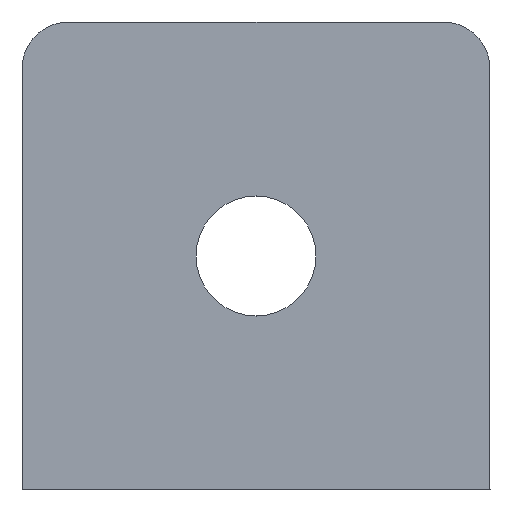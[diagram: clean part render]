
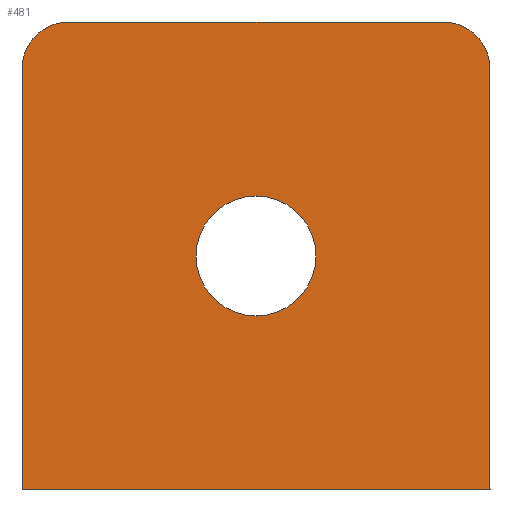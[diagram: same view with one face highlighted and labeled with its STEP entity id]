
A CAD part, left-side view. The second image highlights one B-rep face of the part: STEP entity #481.
In plain terms, the highlighted planar face has unit normal (-1, 0, 0).
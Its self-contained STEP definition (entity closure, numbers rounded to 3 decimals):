
#16 = AXIS2_PLACEMENT_3D ( 'NONE', #420, #357, #424 ) ;
#32 = CARTESIAN_POINT ( 'NONE',  ( 0., -20., 40. ) ) ;
#47 = DIRECTION ( 'NONE',  ( 0., 0., -1. ) ) ;
#51 = CARTESIAN_POINT ( 'NONE',  ( 0., -20., 40. ) ) ;
#53 = DIRECTION ( 'NONE',  ( 0., 0., -1. ) ) ;
#79 = DIRECTION ( 'NONE',  ( 1., 0., 0. ) ) ;
#113 = LINE ( 'NONE', #373, #531 ) ;
#116 = DIRECTION ( 'NONE',  ( 1., 0., 0. ) ) ;
#123 = LINE ( 'NONE', #387, #643 ) ;
#132 = DIRECTION ( 'NONE',  ( 1., 0., 0. ) ) ;
#138 = AXIS2_PLACEMENT_3D ( 'NONE', #777, #116, #47 ) ;
#142 = DIRECTION ( 'NONE',  ( 0., 0., -1. ) ) ;
#146 = EDGE_CURVE ( 'NONE', #261, #282, #123, .T. ) ;
#149 = CIRCLE ( 'NONE', #821, 5.125 ) ;
#150 = CARTESIAN_POINT ( 'NONE',  ( 0., 20., 0. ) ) ;
#163 = DIRECTION ( 'NONE',  ( 1., 0., 0. ) ) ;
#172 = CIRCLE ( 'NONE', #16, 5.125 ) ;
#209 = EDGE_CURVE ( 'NONE', #327, #261, #113, .T. ) ;
#241 = CIRCLE ( 'NONE', #138, 4. ) ;
#258 = DIRECTION ( 'NONE',  ( 0., 0., -1. ) ) ;
#261 = VERTEX_POINT ( 'NONE', #608 ) ;
#282 = VERTEX_POINT ( 'NONE', #150 ) ;
#289 = ORIENTED_EDGE ( 'NONE', *, *, #843, .F. ) ;
#299 = CARTESIAN_POINT ( 'NONE',  ( 0., 16., 40. ) ) ;
#320 = ORIENTED_EDGE ( 'NONE', *, *, #146, .F. ) ;
#322 = DIRECTION ( 'NONE',  ( 0., 1., 0. ) ) ;
#327 = VERTEX_POINT ( 'NONE', #456 ) ;
#347 = EDGE_CURVE ( 'NONE', #520, #565, #149, .T. ) ;
#357 = DIRECTION ( 'NONE',  ( 1., 0., 0. ) ) ;
#373 = CARTESIAN_POINT ( 'NONE',  ( 0., -20., 40. ) ) ;
#377 = AXIS2_PLACEMENT_3D ( 'NONE', #32, #163, #486 ) ;
#383 = EDGE_CURVE ( 'NONE', #394, #282, #538, .T. ) ;
#387 = CARTESIAN_POINT ( 'NONE',  ( 0., -20., 0. ) ) ;
#391 = DIRECTION ( 'NONE',  ( 0., 1., 0. ) ) ;
#394 = VERTEX_POINT ( 'NONE', #745 ) ;
#410 = FACE_OUTER_BOUND ( 'NONE', #433, .T. ) ;
#420 = CARTESIAN_POINT ( 'NONE',  ( 0., 0., 20. ) ) ;
#422 = EDGE_LOOP ( 'NONE', ( #650, #506 ) ) ;
#424 = DIRECTION ( 'NONE',  ( 0., 1., 0. ) ) ;
#433 = EDGE_LOOP ( 'NONE', ( #612, #623, #635, #289, #494, #320 ) ) ;
#448 = CIRCLE ( 'NONE', #788, 4. ) ;
#456 = CARTESIAN_POINT ( 'NONE',  ( 0., -20., 36. ) ) ;
#466 = CARTESIAN_POINT ( 'NONE',  ( 0., 20., 40. ) ) ;
#481 = ADVANCED_FACE ( 'NONE', ( #817, #410 ), #764, .F. ) ;
#486 = DIRECTION ( 'NONE',  ( 0., 0., -1. ) ) ;
#494 = ORIENTED_EDGE ( 'NONE', *, *, #383, .T. ) ;
#506 = ORIENTED_EDGE ( 'NONE', *, *, #347, .T. ) ;
#520 = VERTEX_POINT ( 'NONE', #824 ) ;
#522 = EDGE_CURVE ( 'NONE', #565, #520, #172, .T. ) ;
#531 = VECTOR ( 'NONE', #53, 1000. ) ;
#538 = LINE ( 'NONE', #466, #721 ) ;
#565 = VERTEX_POINT ( 'NONE', #617 ) ;
#585 = CARTESIAN_POINT ( 'NONE',  ( 0., -16., 40. ) ) ;
#608 = CARTESIAN_POINT ( 'NONE',  ( 0., -20., 0. ) ) ;
#612 = ORIENTED_EDGE ( 'NONE', *, *, #209, .F. ) ;
#617 = CARTESIAN_POINT ( 'NONE',  ( 0., 0., 14.875 ) ) ;
#623 = ORIENTED_EDGE ( 'NONE', *, *, #697, .F. ) ;
#635 = ORIENTED_EDGE ( 'NONE', *, *, #673, .T. ) ;
#643 = VECTOR ( 'NONE', #322, 1000. ) ;
#650 = ORIENTED_EDGE ( 'NONE', *, *, #522, .T. ) ;
#651 = LINE ( 'NONE', #51, #801 ) ;
#656 = DIRECTION ( 'NONE',  ( 0., 1., 0. ) ) ;
#661 = CARTESIAN_POINT ( 'NONE',  ( 0., 16., 36. ) ) ;
#673 = EDGE_CURVE ( 'NONE', #780, #713, #651, .T. ) ;
#697 = EDGE_CURVE ( 'NONE', #780, #327, #241, .T. ) ;
#713 = VERTEX_POINT ( 'NONE', #299 ) ;
#721 = VECTOR ( 'NONE', #142, 1000. ) ;
#745 = CARTESIAN_POINT ( 'NONE',  ( 0., 20., 36. ) ) ;
#764 = PLANE ( 'NONE',  #377 ) ;
#777 = CARTESIAN_POINT ( 'NONE',  ( 0., -16., 36. ) ) ;
#780 = VERTEX_POINT ( 'NONE', #585 ) ;
#788 = AXIS2_PLACEMENT_3D ( 'NONE', #661, #79, #258 ) ;
#801 = VECTOR ( 'NONE', #656, 1000. ) ;
#805 = CARTESIAN_POINT ( 'NONE',  ( 0., 0., 20. ) ) ;
#817 = FACE_BOUND ( 'NONE', #422, .T. ) ;
#821 = AXIS2_PLACEMENT_3D ( 'NONE', #805, #132, #391 ) ;
#824 = CARTESIAN_POINT ( 'NONE',  ( 0., 0., 25.125 ) ) ;
#843 = EDGE_CURVE ( 'NONE', #394, #713, #448, .T. ) ;
